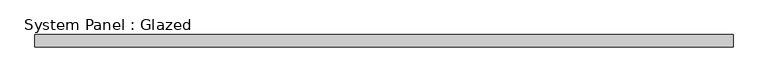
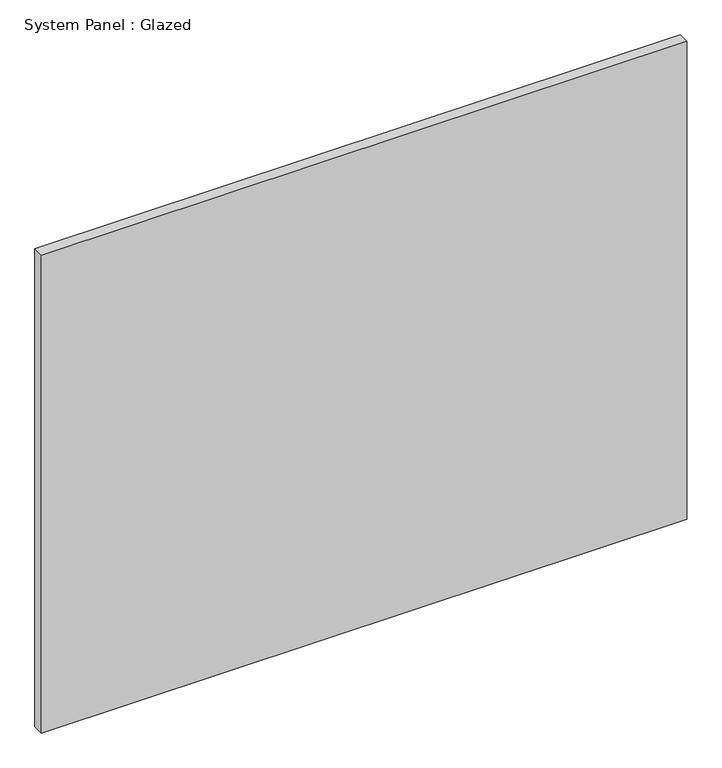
"""IFC4 building model written with IfcOpenShell, lengths in millimetres: plate geometry, System Panel : Glazed."""

from ifc_helpers import new_model, si_unit, origin, origin_with_axes, place, context, project, spatial, polyline, outline, extrude, source, transform, mapped, element, save


def system_panel_glazed_756ddb3e(model_context):
    return source(origin(), model_context, "Body", "SweptSolid", [
        extrude(outline(polyline([(718.0555555, 24.5), (-718.0555555, 24.5), (-718.0555555, 49.5), (718.0555555, 49.5), (718.0555555, 24.5)])), origin_with_axes(), (0.0, 0.0, 1.0), 1125.0),
    ])


if __name__ == "__main__":
    model = new_model("IFC4")
    model_context = context("Model", 3, world=origin())
    ifc_project = project(units=[si_unit("LENGTHUNIT", "METRE", prefix="MILLI")], contexts=[model_context])
    site = spatial("IfcSite", under=ifc_project)
    building = spatial("IfcBuilding", under=site)
    placement = place(None, origin())
    system_panel_glazed_shape = system_panel_glazed_756ddb3e(model_context)
    element("IfcPlate", 1, ObjectType="System Panel : Glazed", at=placement, inside=building, context=model_context, shape_type="MappedRepresentation", body=[
        mapped(system_panel_glazed_shape, transform((0.0, 0.0, 0.0), x_axis=(1.0, 0.0, 0.0), y_axis=(0.0, 1.0, 0.0), z_axis=(0.0, 0.0, 1.0))),
    ])
    save(model, "model.ifc")
